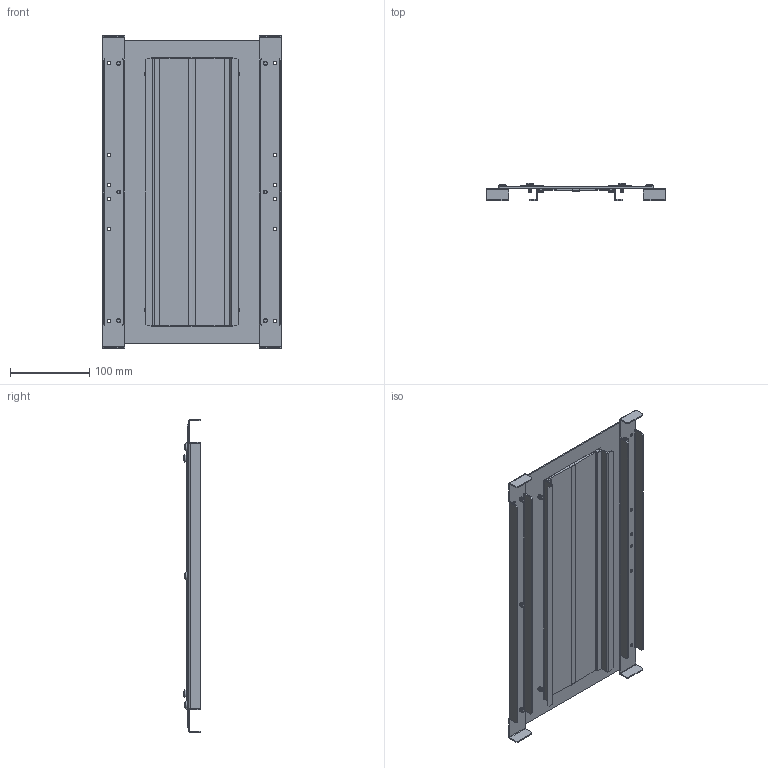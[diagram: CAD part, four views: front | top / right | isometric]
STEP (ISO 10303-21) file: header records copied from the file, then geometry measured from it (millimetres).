
FILE_DESCRIPTION (( 'STEP AP203' ), '1' );
FILE_NAME ('R5FCSD5.STEP', '2019-03-22T06:25:11', ( '' ), ( '' ), 'SwSTEP 2.0', 'SolidWorks 2017', '' );
FILE_SCHEMA (( 'CONFIG_CONTROL_DESIGN' ));
Length unit declared in the file: millimetre
Products named in the file (7): RB.1198.00.00.0_-01 (500); RB.1201.00.00.0_-01 (500); PD.18.07.02 Aluminium profile_338; PD.18.07.02 Brush_338; M5x8-DIN7500C_thread; R5FCSD5
Assembly tree (17 placements, depth 3):
  R5FCSD5
    RB.1198.00.00.0_-01 (500)  x2
    RB.1201.00.00.0_-01 (500)
    PD.18.07.02 Brush_338  x2
      PD.18.07.02 Aluminium profile_338
      PD.18.07.02 Brush_338
    M5x8-DIN7500C_thread  x10
Bounding box: 226 x 21.96 x 396 mm (x, y, z)
Volume: 314406.3 mm3; surface area: 344803.9 mm2
Topology: 17 solids, 17 shells, 1022 faces, 2564 edges, 1566 vertices
Faces by surface type: cone 360, plane 300, cylinder 282, torus 40, bspline 20, sphere 20
Entity records: 9311 total; most frequent: CARTESIAN_POINT 1604, DIRECTION 1448, ORIENTED_EDGE 1360, EDGE_CURVE 680, AXIS2_PLACEMENT_3D 495, LINE 458, VECTOR 458, VERTEX_POINT 427
